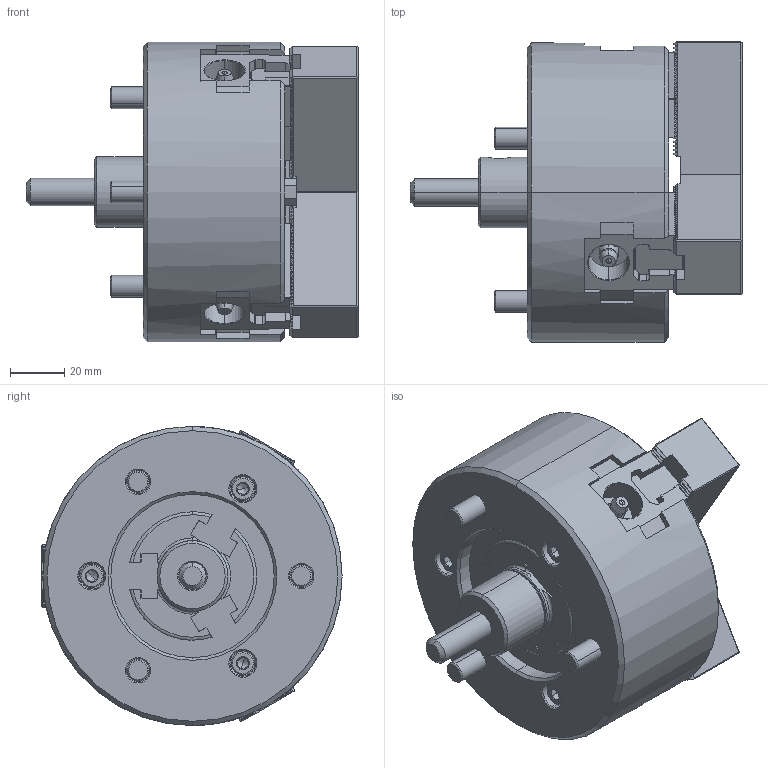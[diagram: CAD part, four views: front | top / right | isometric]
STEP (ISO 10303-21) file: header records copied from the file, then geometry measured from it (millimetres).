
FILE_DESCRIPTION (( 'STEP AP214' ), '1' );
FILE_NAME ('DT1_N-04_OUTSIDE_VIEW_OC.STEP', '2026-03-13T01:43:49', ( '' ), ( '' ), 'SwSTEP 2.0', 'SolidWorks 2022', '' );
FILE_SCHEMA (( 'AUTOMOTIVE_DESIGN' ));
Length unit declared in the file: millimetre
Products named in the file (10): DT1_N-04_TNUT^DT1_N-04; DT1_N-04_BASE^DT1_N-04; DT1_N-04_M3x8^DT1_N-04; DT1_N-04_COVER^DT1_N-04; DT1_N-04_DRAWSCREW^DT1_N-04; DT1_N-04_SOFTJAW^DT1_N-04; DT1_N-04_DN^DT1_N-04; DT1_N-04_M8x55^DT1_N-04; DT1_N-04_M8x22^DT1_N-04; DT1_N-04_OUTSIDE_VIEW_OC
Assembly tree (22 placements, depth 2):
  DT1_N-04_OUTSIDE_VIEW_OC
    DT1_N-04_SOFTJAW^DT1_N-04  x3
    DT1_N-04_TNUT^DT1_N-04  x3
    DT1_N-04_COVER^DT1_N-04
    DT1_N-04_DRAWSCREW^DT1_N-04
    DT1_N-04_DN^DT1_N-04
    DT1_N-04_BASE^DT1_N-04
    DT1_N-04_M8x22^DT1_N-04  x6
    DT1_N-04_M8x55^DT1_N-04  x3
    DT1_N-04_M3x8^DT1_N-04  x3
Bounding box: 122 x 110.36 x 110 mm (x, y, z)
Volume: 553663.1 mm3; surface area: 113252.1 mm2
Topology: 22 solids, 22 shells, 3356 faces, 9107 edges, 5834 vertices
Faces by surface type: plane 2227, cylinder 719, cone 258, bspline 90, torus 56, sphere 6
Entity records: 77410 total; most frequent: CARTESIAN_POINT 19488, ORIENTED_EDGE 12754, DIRECTION 10773, EDGE_CURVE 6377, VECTOR 4791, LINE 4791, VERTEX_POINT 4137, AXIS2_PLACEMENT_3D 2991
